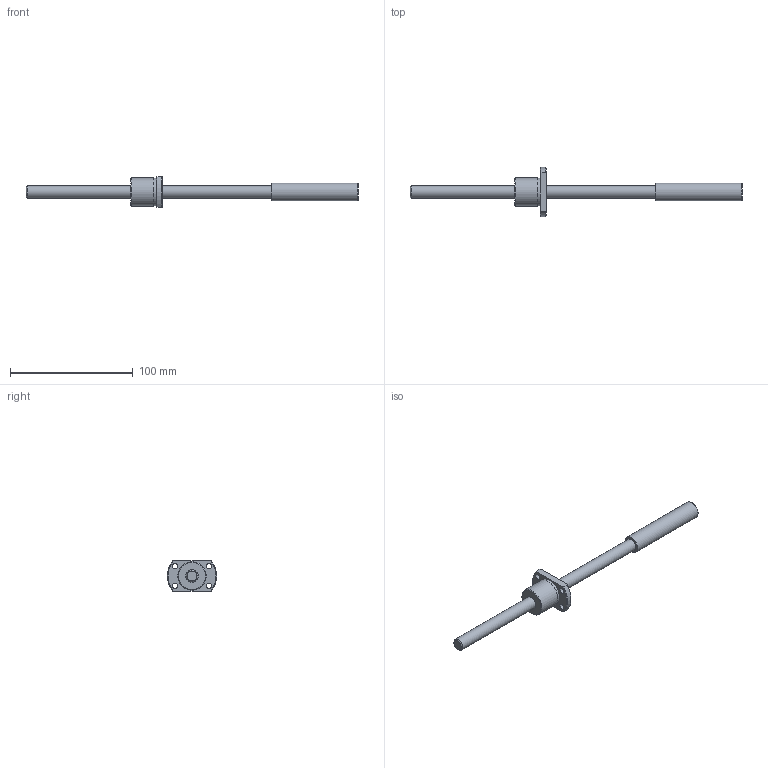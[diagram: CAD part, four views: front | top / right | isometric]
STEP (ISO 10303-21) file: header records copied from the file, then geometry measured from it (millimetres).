
FILE_DESCRIPTION(/* description */ ('STEP AP214'),/* implementation_level */ '2;1');
FILE_NAME(/* name */ 'SRT1005-196R270C7A0X(85None)',/* time_stamp */ '2026-08-06T15:09:07+02:00',/* author */ ('License CC BY-ND 4.0'),/* organization */ ('CADENAS'),/* preprocessor_version */ 'ST-DEVELOPER v20',/* originating_system */ 'PARTsolutions',/* authorisation */ ' ');
FILE_SCHEMA (('AUTOMOTIVE_DESIGN {1 0 10303 214 3 1 1}'));
Length unit declared in the file: millimetre
Products named in the file (3): SRT1005-196R270C7A0X(85None); SRT1005-196R270ACt7None61Shaft; SRT1005Nut
Assembly tree (2 placements, depth 2):
  SRT1005-196R270C7A0X(85None)
    SRT1005-196R270ACt7None61Shaft
    SRT1005Nut
Bounding box: 270 x 40 x 25 mm (x, y, z)
Volume: 37748.8 mm3; surface area: 14432.3 mm2
Topology: 2 solids, 2 shells, 27 faces, 61 edges, 41 vertices
Faces by surface type: cylinder 11, plane 9, cone 7
Full cylindrical faces by diameter (mm): 4.5 x4, 10 x2, 14.2 x1, 22.7 x1, 23 x1
Entity records: 779 total; most frequent: CARTESIAN_POINT 136, DIRECTION 126, ORIENTED_EDGE 90, AXIS2_PLACEMENT_3D 59, EDGE_LOOP 52, FACE_BOUND 52, EDGE_CURVE 45, VERTEX_POINT 37
